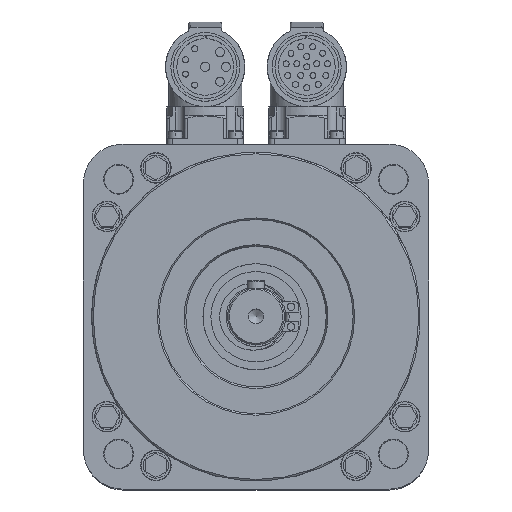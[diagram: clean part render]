
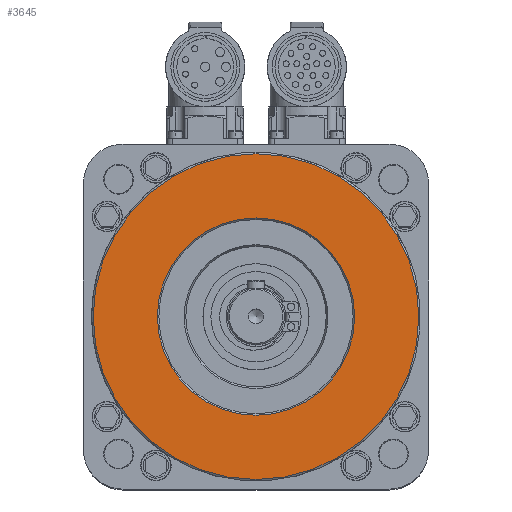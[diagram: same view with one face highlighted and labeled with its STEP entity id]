
A CAD part, top view. The second image highlights one B-rep face of the part: STEP entity #3645.
In plain terms, the highlighted planar face has unit normal (0, 0, 1).
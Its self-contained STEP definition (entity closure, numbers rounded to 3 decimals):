
#3645 = ADVANCED_FACE( '', ( #7616, #7617 ), #7618, .F. );
#7616 = FACE_BOUND( '', #14858, .T. );
#7617 = FACE_OUTER_BOUND( '', #14859, .T. );
#7618 = PLANE( '', #14860 );
#14858 = EDGE_LOOP( '', ( #26116 ) );
#14859 = EDGE_LOOP( '', ( #26117 ) );
#14860 = AXIS2_PLACEMENT_3D( '', #26118, #26119, #26120 );
#26116 = ORIENTED_EDGE( '', *, *, #37024, .T. );
#26117 = ORIENTED_EDGE( '', *, *, #34537, .F. );
#26118 = CARTESIAN_POINT( '', ( 0., 0., 16.5 ) );
#26119 = DIRECTION( '', ( 0., 0., -1. ) );
#26120 = DIRECTION( '', ( -1., 0., 0. ) );
#34537 = EDGE_CURVE( '', #43206, #43206, #43207, .T. );
#37024 = EDGE_CURVE( '', #46943, #46943, #46944, .T. );
#43206 = VERTEX_POINT( '', #54062 );
#43207 = CIRCLE( '', #54063, 54.5 );
#46943 = VERTEX_POINT( '', #64799 );
#46944 = CIRCLE( '', #64800, 33. );
#54062 = CARTESIAN_POINT( '', ( -54.5, 0., 16.5 ) );
#54063 = AXIS2_PLACEMENT_3D( '', #71742, #71743, #71744 );
#64799 = CARTESIAN_POINT( '', ( -33., 0., 16.5 ) );
#64800 = AXIS2_PLACEMENT_3D( '', #74702, #74703, #74704 );
#71742 = CARTESIAN_POINT( '', ( 0., 0., 16.5 ) );
#71743 = DIRECTION( '', ( 0., 0., -1. ) );
#71744 = DIRECTION( '', ( -1., 0., 0. ) );
#74702 = CARTESIAN_POINT( '', ( 0., 0., 16.5 ) );
#74703 = DIRECTION( '', ( 0., 0., -1. ) );
#74704 = DIRECTION( '', ( -1., 0., 0. ) );
